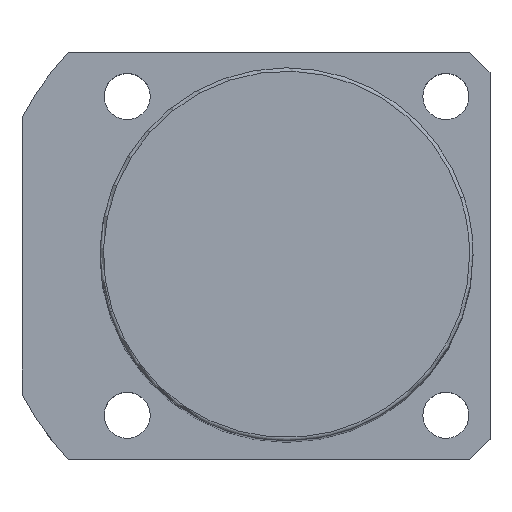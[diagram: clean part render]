
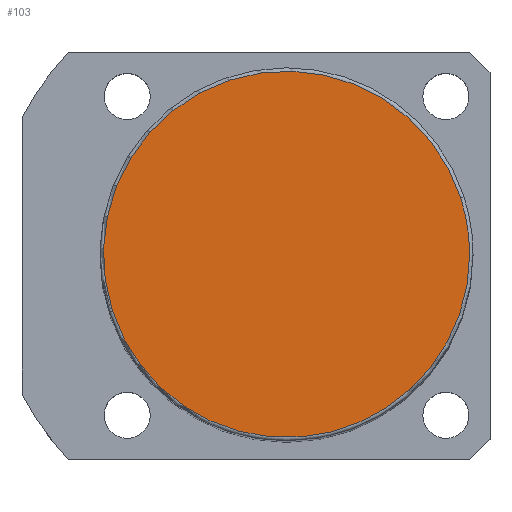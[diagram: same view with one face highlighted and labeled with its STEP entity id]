
A CAD part, top view. The second image highlights one B-rep face of the part: STEP entity #103.
In plain terms, the highlighted planar face has unit normal (0, 0, 1).
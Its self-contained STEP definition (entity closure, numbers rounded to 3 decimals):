
#16=CARTESIAN_POINT('',(-25.679,-8.343,141.0));
#17=VERTEX_POINT('',#16);
#54=CARTESIAN_POINT('',(25.679,8.343,141.0));
#55=VERTEX_POINT('',#54);
#63=CARTESIAN_POINT('',(27.0,0.0,141.0));
#64=VERTEX_POINT('',#63);
#65=CARTESIAN_POINT('',(0.0,0.0,141.0));
#66=DIRECTION('',(0.0,0.0,1.0));
#67=DIRECTION('',(1.0,0.0,0.0));
#68=AXIS2_PLACEMENT_3D('',#65,#66,#67);
#69=CIRCLE('',#68,27.0);
#70=EDGE_CURVE('no 898',#64,#55,#69,.T.);
#72=CARTESIAN_POINT('',(0.0,0.0,141.0));
#73=DIRECTION('',(0.0,0.0,1.0));
#74=DIRECTION('',(1.0,0.0,0.0));
#75=AXIS2_PLACEMENT_3D('',#72,#73,#74);
#76=CIRCLE('',#75,27.0);
#77=EDGE_CURVE('no 902',#17,#64,#76,.T.);
#87=ORIENTED_EDGE('',*,*,#70,.T.);
#88=CARTESIAN_POINT('',(0.0,0.0,141.0));
#89=DIRECTION('',(0.0,0.0,1.0));
#90=DIRECTION('',(1.0,0.0,0.0));
#91=AXIS2_PLACEMENT_3D('',#88,#89,#90);
#92=CIRCLE('',#91,27.0);
#93=EDGE_CURVE('no 911',#55,#17,#92,.T.);
#94=ORIENTED_EDGE('',*,*,#93,.T.);
#95=ORIENTED_EDGE('',*,*,#77,.T.);
#96=EDGE_LOOP('',(#87,#94,#95));
#97=FACE_OUTER_BOUND('',#96,.T.);
#98=CARTESIAN_POINT('',(0.0,0.0,141.0));
#99=DIRECTION('',(0.0,0.0,1.0));
#100=DIRECTION('',(1.0,0.0,0.0));
#101=AXIS2_PLACEMENT_3D('',#98,#99,#100);
#102=PLANE('',#101);
#103=ADVANCED_FACE('no 904',(#97),#102,.T.);
